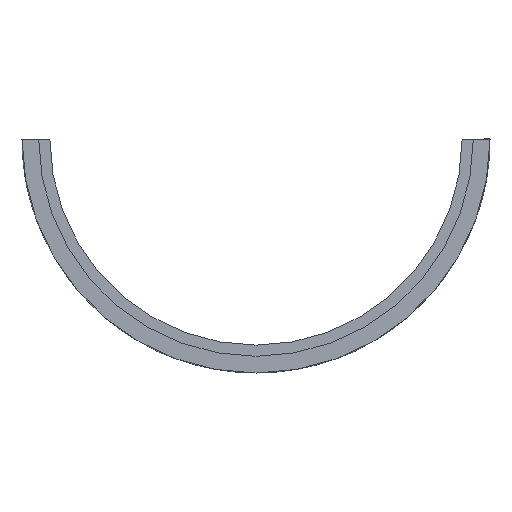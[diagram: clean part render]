
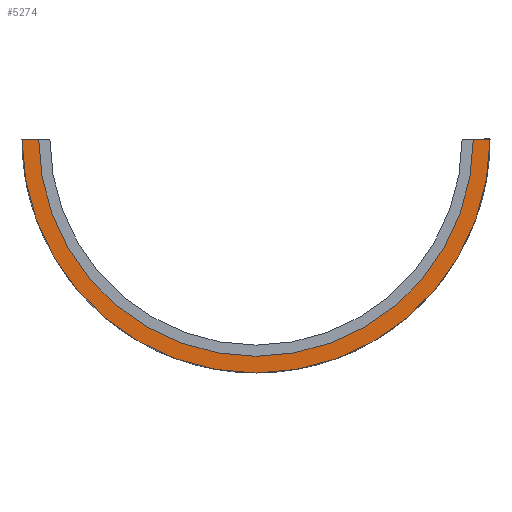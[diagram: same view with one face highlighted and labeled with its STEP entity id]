
A CAD part, left-side view. The second image highlights one B-rep face of the part: STEP entity #5274.
In plain terms, the highlighted planar face has unit normal (-1, 0, 0).
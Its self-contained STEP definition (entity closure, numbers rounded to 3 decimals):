
#21 = EDGE_CURVE('',#22,#24,#26,.T.);
#22 = VERTEX_POINT('',#23);
#23 = CARTESIAN_POINT('',(20.,-21.,0.));
#24 = VERTEX_POINT('',#25);
#25 = CARTESIAN_POINT('',(20.,21.,0.));
#26 = SURFACE_CURVE('',#27,(#32,#44),.PCURVE_S1.);
#27 = CIRCLE('',#28,21.);
#28 = AXIS2_PLACEMENT_3D('',#29,#30,#31);
#29 = CARTESIAN_POINT('',(20.,0.,0.));
#30 = DIRECTION('',(1.,0.,0.));
#31 = DIRECTION('',(0.,-1.,0.));
#32 = PCURVE('',#33,#38);
#33 = CYLINDRICAL_SURFACE('',#34,21.);
#34 = AXIS2_PLACEMENT_3D('',#35,#36,#37);
#35 = CARTESIAN_POINT('',(20.,0.,0.));
#36 = DIRECTION('',(1.,0.,0.));
#37 = DIRECTION('',(0.,0.,-1.));
#38 = DEFINITIONAL_REPRESENTATION('',(#39),#43);
#39 = LINE('',#40,#41);
#40 = CARTESIAN_POINT('',(4.712,0.));
#41 = VECTOR('',#42,1.);
#42 = DIRECTION('',(1.,0.));
#43 = ( GEOMETRIC_REPRESENTATION_CONTEXT(2) 
PARAMETRIC_REPRESENTATION_CONTEXT() REPRESENTATION_CONTEXT('2D SPACE',''
  ) );
#44 = PCURVE('',#45,#50);
#45 = PLANE('',#46);
#46 = AXIS2_PLACEMENT_3D('',#47,#48,#49);
#47 = CARTESIAN_POINT('',(20.,0.,0.));
#48 = DIRECTION('',(1.,0.,0.));
#49 = DIRECTION('',(0.,0.,-1.));
#50 = DEFINITIONAL_REPRESENTATION('',(#51),#55);
#51 = CIRCLE('',#52,21.);
#52 = AXIS2_PLACEMENT_2D('',#53,#54);
#53 = CARTESIAN_POINT('',(0.,0.));
#54 = DIRECTION('',(0.,-1.));
#55 = ( GEOMETRIC_REPRESENTATION_CONTEXT(2) 
PARAMETRIC_REPRESENTATION_CONTEXT() REPRESENTATION_CONTEXT('2D SPACE',''
  ) );
#73 = PLANE('',#74);
#74 = AXIS2_PLACEMENT_3D('',#75,#76,#77);
#75 = CARTESIAN_POINT('',(-10.,-60.,0.));
#76 = DIRECTION('',(0.,0.,1.));
#77 = DIRECTION('',(1.,0.,-0.));
#734 = PLANE('',#735);
#735 = AXIS2_PLACEMENT_3D('',#736,#737,#738);
#736 = CARTESIAN_POINT('',(-10.,-60.,0.));
#737 = DIRECTION('',(0.,0.,1.));
#738 = DIRECTION('',(1.,0.,-0.));
#4935 = CYLINDRICAL_SURFACE('',#4936,19.5);
#4936 = AXIS2_PLACEMENT_3D('',#4937,#4938,#4939);
#4937 = CARTESIAN_POINT('',(19.,0.,0.));
#4938 = DIRECTION('',(1.,0.,0.));
#4939 = DIRECTION('',(0.,0.,-1.));
#4989 = EDGE_CURVE('',#4990,#4992,#4994,.T.);
#4990 = VERTEX_POINT('',#4991);
#4991 = CARTESIAN_POINT('',(20.,-19.5,0.));
#4992 = VERTEX_POINT('',#4993);
#4993 = CARTESIAN_POINT('',(20.,19.5,0.));
#4994 = SURFACE_CURVE('',#4995,(#5000,#5007),.PCURVE_S1.);
#4995 = CIRCLE('',#4996,19.5);
#4996 = AXIS2_PLACEMENT_3D('',#4997,#4998,#4999);
#4997 = CARTESIAN_POINT('',(20.,0.,0.));
#4998 = DIRECTION('',(1.,0.,0.));
#4999 = DIRECTION('',(0.,-1.,0.));
#5000 = PCURVE('',#4935,#5001);
#5001 = DEFINITIONAL_REPRESENTATION('',(#5002),#5006);
#5002 = LINE('',#5003,#5004);
#5003 = CARTESIAN_POINT('',(4.712,1.));
#5004 = VECTOR('',#5005,1.);
#5005 = DIRECTION('',(1.,0.));
#5006 = ( GEOMETRIC_REPRESENTATION_CONTEXT(2) 
PARAMETRIC_REPRESENTATION_CONTEXT() REPRESENTATION_CONTEXT('2D SPACE',''
  ) );
#5007 = PCURVE('',#45,#5008);
#5008 = DEFINITIONAL_REPRESENTATION('',(#5009),#5013);
#5009 = CIRCLE('',#5010,19.5);
#5010 = AXIS2_PLACEMENT_2D('',#5011,#5012);
#5011 = CARTESIAN_POINT('',(0.,0.));
#5012 = DIRECTION('',(0.,-1.));
#5013 = ( GEOMETRIC_REPRESENTATION_CONTEXT(2) 
PARAMETRIC_REPRESENTATION_CONTEXT() REPRESENTATION_CONTEXT('2D SPACE',''
  ) );
#5088 = EDGE_CURVE('',#4990,#22,#5089,.T.);
#5089 = SURFACE_CURVE('',#5090,(#5094,#5100),.PCURVE_S1.);
#5090 = LINE('',#5091,#5092);
#5091 = CARTESIAN_POINT('',(20.,-30.,0.));
#5092 = VECTOR('',#5093,1.);
#5093 = DIRECTION('',(0.,-1.,0.));
#5094 = PCURVE('',#734,#5095);
#5095 = DEFINITIONAL_REPRESENTATION('',(#5096),#5099);
#5096 = B_SPLINE_CURVE_WITH_KNOTS('',1,(#5097,#5098),.UNSPECIFIED.,.F.,
  .F.,(2,2),(-51.,-9.),.PIECEWISE_BEZIER_KNOTS.);
#5097 = CARTESIAN_POINT('',(30.,81.));
#5098 = CARTESIAN_POINT('',(30.,39.));
#5099 = ( GEOMETRIC_REPRESENTATION_CONTEXT(2) 
PARAMETRIC_REPRESENTATION_CONTEXT() REPRESENTATION_CONTEXT('2D SPACE',''
  ) );
#5100 = PCURVE('',#45,#5101);
#5101 = DEFINITIONAL_REPRESENTATION('',(#5102),#5105);
#5102 = B_SPLINE_CURVE_WITH_KNOTS('',1,(#5103,#5104),.UNSPECIFIED.,.F.,
  .F.,(2,2),(-51.,-9.),.PIECEWISE_BEZIER_KNOTS.);
#5103 = CARTESIAN_POINT('',(0.,21.));
#5104 = CARTESIAN_POINT('',(0.,-21.));
#5105 = ( GEOMETRIC_REPRESENTATION_CONTEXT(2) 
PARAMETRIC_REPRESENTATION_CONTEXT() REPRESENTATION_CONTEXT('2D SPACE',''
  ) );
#5241 = EDGE_CURVE('',#24,#4992,#5242,.T.);
#5242 = SURFACE_CURVE('',#5243,(#5247,#5253),.PCURVE_S1.);
#5243 = LINE('',#5244,#5245);
#5244 = CARTESIAN_POINT('',(20.,-30.,0.));
#5245 = VECTOR('',#5246,1.);
#5246 = DIRECTION('',(0.,-1.,0.));
#5247 = PCURVE('',#73,#5248);
#5248 = DEFINITIONAL_REPRESENTATION('',(#5249),#5252);
#5249 = B_SPLINE_CURVE_WITH_KNOTS('',1,(#5250,#5251),.UNSPECIFIED.,.F.,
  .F.,(2,2),(-51.,-9.),.PIECEWISE_BEZIER_KNOTS.);
#5250 = CARTESIAN_POINT('',(30.,81.));
#5251 = CARTESIAN_POINT('',(30.,39.));
#5252 = ( GEOMETRIC_REPRESENTATION_CONTEXT(2) 
PARAMETRIC_REPRESENTATION_CONTEXT() REPRESENTATION_CONTEXT('2D SPACE',''
  ) );
#5253 = PCURVE('',#45,#5254);
#5254 = DEFINITIONAL_REPRESENTATION('',(#5255),#5258);
#5255 = B_SPLINE_CURVE_WITH_KNOTS('',1,(#5256,#5257),.UNSPECIFIED.,.F.,
  .F.,(2,2),(-51.,-9.),.PIECEWISE_BEZIER_KNOTS.);
#5256 = CARTESIAN_POINT('',(0.,21.));
#5257 = CARTESIAN_POINT('',(0.,-21.));
#5258 = ( GEOMETRIC_REPRESENTATION_CONTEXT(2) 
PARAMETRIC_REPRESENTATION_CONTEXT() REPRESENTATION_CONTEXT('2D SPACE',''
  ) );
#5274 = ADVANCED_FACE('',(#5275),#45,.F.);
#5275 = FACE_BOUND('',#5276,.F.);
#5276 = EDGE_LOOP('',(#5277,#5278,#5279,#5280));
#5277 = ORIENTED_EDGE('',*,*,#21,.T.);
#5278 = ORIENTED_EDGE('',*,*,#5241,.T.);
#5279 = ORIENTED_EDGE('',*,*,#4989,.F.);
#5280 = ORIENTED_EDGE('',*,*,#5088,.T.);
